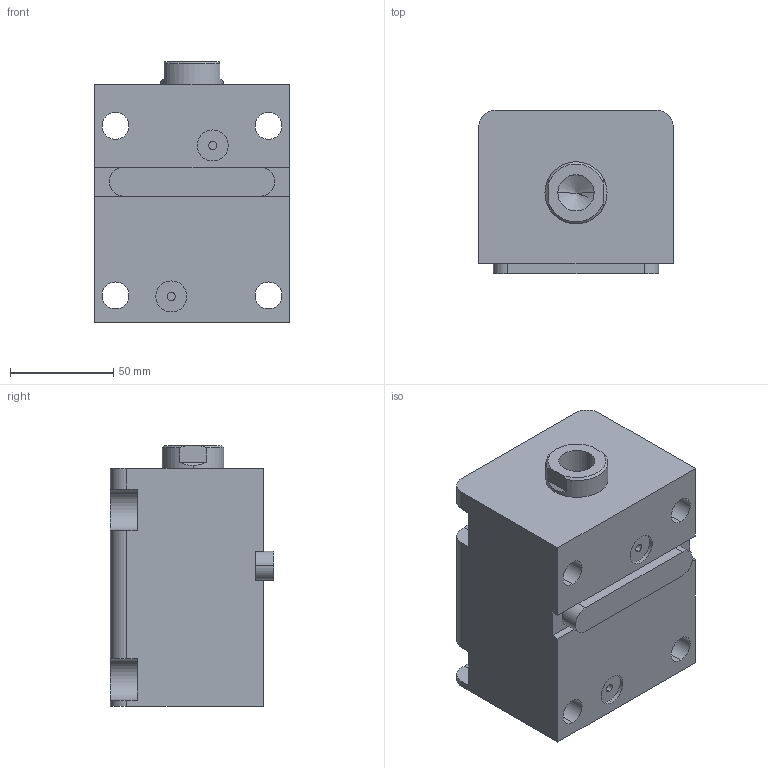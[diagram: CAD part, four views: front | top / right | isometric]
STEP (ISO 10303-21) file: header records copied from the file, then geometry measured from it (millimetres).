
FILE_DESCRIPTION (( 'STEP AP203' ), '1' );
FILE_NAME ('HTB-LAM50-55N.STEP', '2023-03-20T00:56:24', ( '微软用户' ), ( '微软中国' ), 'SwSTEP 2.0', 'SolidWorks 2012', '' );
FILE_SCHEMA (( 'CONFIG_CONTROL_DESIGN' ));
Length unit declared in the file: millimetre
Products named in the file (4): HTB-LAM50-55N; HTB-LWM50-瑩; HTB-LAM50-55N活塞杆; HTB-LAM50-55掛极
Assembly tree (3 placements, depth 2):
  HTB-LAM50-55N
    HTB-LAM50-55掛极
    HTB-LAM50-55N活塞杆
    HTB-LWM50-瑩
Bounding box: 94 x 79 x 126 mm (x, y, z)
Volume: 682235.8 mm3; surface area: 101756.9 mm2
Topology: 3 solids, 3 shells, 86 faces, 213 edges, 139 vertices
Faces by surface type: cylinder 39, plane 39, torus 4, cone 4
Entity records: 3001 total; most frequent: DIRECTION 475, CARTESIAN_POINT 470, ORIENTED_EDGE 422, EDGE_CURVE 211, AXIS2_PLACEMENT_3D 180, VERTEX_POINT 139, VECTOR 115, LINE 115
